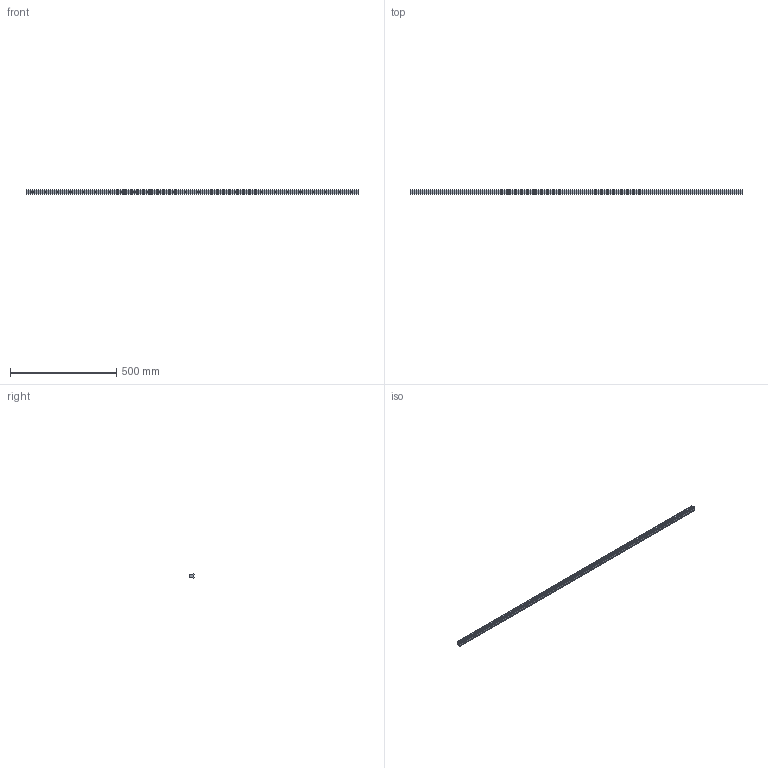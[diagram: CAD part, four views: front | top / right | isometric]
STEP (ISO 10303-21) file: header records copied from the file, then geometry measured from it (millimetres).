
FILE_DESCRIPTION (( 'STEP AP203' ), '1' );
FILE_NAME ('L1018.20R-1560.step', '2023-08-06T09:09:02', ( '' ), ( '' ), 'SwSTEP 2.0', 'SolidWorks 2019', '' );
FILE_SCHEMA (( 'CONFIG_CONTROL_DESIGN' ));
Length unit declared in the file: millimetre
Products named in the file (1): L1018.20R-1560
Bounding box: 1560 x 19.3 x 20 mm (x, y, z)
Volume: 494720.1 mm3; surface area: 132298.9 mm2
Topology: 1 solids, 1 shells, 263 faces, 601 edges, 340 vertices
Faces by surface type: cylinder 107, cone 104, plane 52
Entity records: 7082 total; most frequent: DIRECTION 1343, CARTESIAN_POINT 1153, ORIENTED_EDGE 1098, EDGE_CURVE 549, AXIS2_PLACEMENT_3D 530, VERTEX_POINT 340, EDGE_LOOP 315, LINE 283
